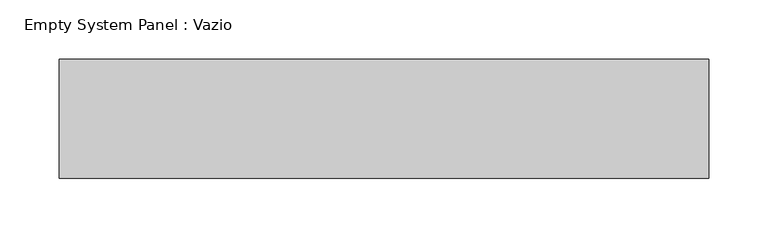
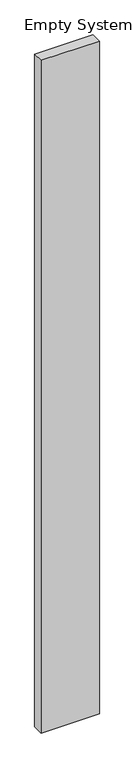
"""IFC4 building model written with IfcOpenShell, lengths in millimetres: plate geometry, Empty System Panel : Vazio."""

from ifc_helpers import new_model, si_unit, origin, origin_with_axes, place, context, project, spatial, polyline, outline, extrude, source, transform, mapped, element, save


def empty_system_panel_vazio_6414fa12(model_context):
    return source(origin(), model_context, "Body", "SweptSolid", [
        extrude(outline(polyline([(273.4375001, 50.0), (-273.4375001, 50.0), (-273.4375001, 150.0), (273.4375001, 150.0), (273.4375001, 50.0)])), origin_with_axes(), (0.0, 0.0, 1.0), 6651.7961657),
    ])


if __name__ == "__main__":
    model = new_model("IFC4")
    model_context = context("Model", 3, world=origin())
    ifc_project = project(units=[si_unit("LENGTHUNIT", "METRE", prefix="MILLI")], contexts=[model_context])
    site = spatial("IfcSite", under=ifc_project)
    building = spatial("IfcBuilding", under=site)
    placement = place(None, origin())
    empty_system_panel_vazio_shape = empty_system_panel_vazio_6414fa12(model_context)
    element("IfcPlate", 1, ObjectType="Empty System Panel : Vazio", at=placement, inside=building, context=model_context, shape_type="MappedRepresentation", body=[
        mapped(empty_system_panel_vazio_shape, transform((0.0, 0.0, 0.0), x_axis=(1.0, 0.0, 0.0), y_axis=(0.0, 1.0, 0.0), z_axis=(0.0, 0.0, 1.0))),
    ])
    save(model, "model.ifc")
